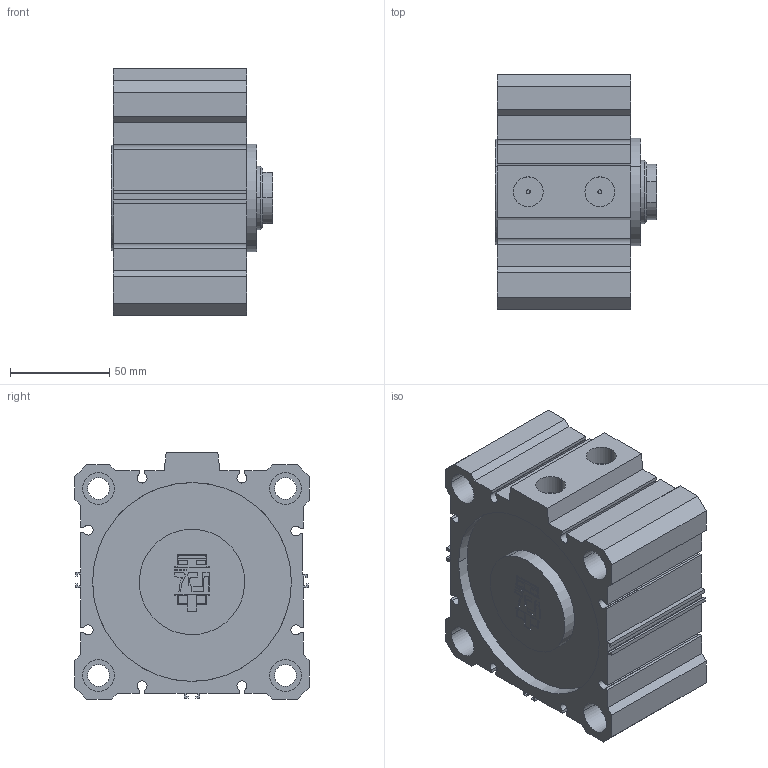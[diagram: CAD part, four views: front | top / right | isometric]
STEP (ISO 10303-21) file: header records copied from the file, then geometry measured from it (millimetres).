
FILE_DESCRIPTION(('CATIA V5 STEP Exchange'),'2;1');
FILE_NAME('D:\PDA\PDA-STP\PDA 100-32\PDA 100-32-10.stp','2016-02-02T11:06:14+00:00',('none'),('none'),'Version 5-6 Release 2012','CATIA V5 STEP AP203','none');
FILE_SCHEMA(('CONFIG_CONTROL_DESIGN'));
Length unit declared in the file: millimetre
Products named in the file (1): PDA 100-32-10-00
Assembly tree (2 placements, depth 2):
  PDA 100-32-10-00
    #58
    #7695
Bounding box: 81 x 118 x 124 mm (x, y, z)
Volume: 638766.3 mm3; surface area: 137748.5 mm2
Topology: 2 solids, 2 shells, 284 faces, 744 edges, 498 vertices
Faces by surface type: plane 202, cylinder 80, cone 2
Entity records: 8167 total; most frequent: ORIENTED_EDGE 1488, CARTESIAN_POINT 1432, DIRECTION 1124, EDGE_CURVE 744, VECTOR 574, LINE 574, VERTEX_POINT 498, AXIS2_PLACEMENT_3D 360
